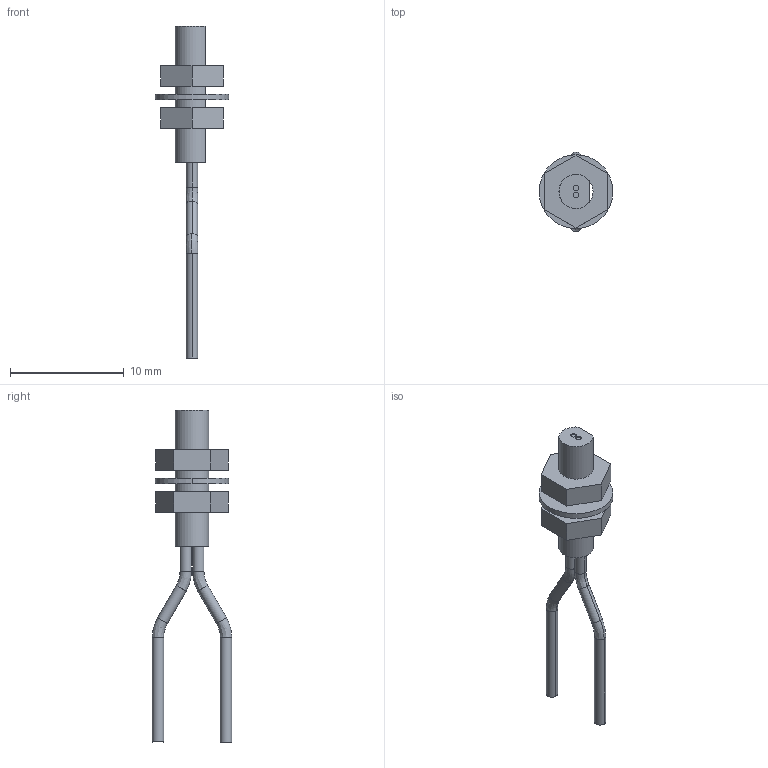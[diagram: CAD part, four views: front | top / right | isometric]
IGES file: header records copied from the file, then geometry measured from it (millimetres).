
Start section: SolidWorks IGES FILE using analytic representation for surfaces
Global section: file name: C:\Documents and Settings\yk0651\デスクトップ\3D_catalog_050904\0_IGES\FD-WT4.IGS; native system: SolidWorks 2004 by SolidWorks Corporation; preprocessor: Version 5.3; author: yk0651; date: 050904.192938; units: millimetre
Bounding box: 6.5 x 7 x 29.24 mm (x, y, z)
Volume: 190.3 mm3; surface area: 483.4 mm2
Topology: 4 solids, 4 shells, 58 faces, 122 edges, 76 vertices
Faces by surface type: revolution 33, plane 25
